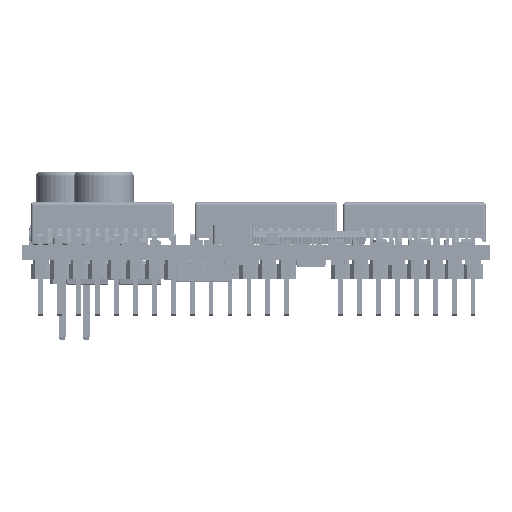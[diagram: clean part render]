
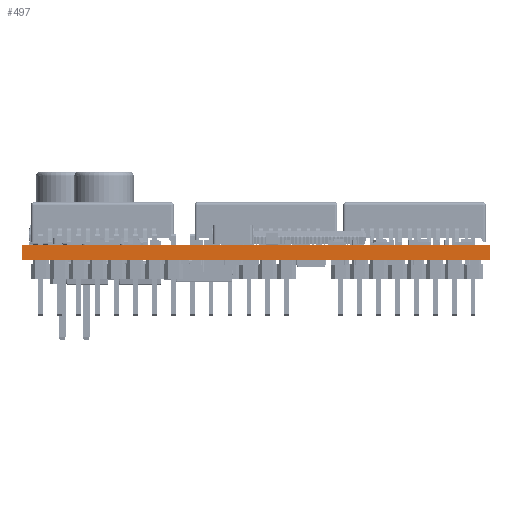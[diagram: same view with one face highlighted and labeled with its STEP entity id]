
A CAD part, front view. The second image highlights one B-rep face of the part: STEP entity #497.
In plain terms, the highlighted planar face has unit normal (0, -1, 0).
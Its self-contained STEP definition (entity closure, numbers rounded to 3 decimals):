
#472 = VERTEX_POINT('',#473);
#473 = CARTESIAN_POINT('',(49.487,0.013,
    1.6));
#479 = EDGE_CURVE('',#480,#472,#482,.T.);
#480 = VERTEX_POINT('',#481);
#481 = CARTESIAN_POINT('',(49.487,0.013,0.));
#482 = LINE('',#483,#484);
#483 = CARTESIAN_POINT('',(49.487,0.013,0.));
#484 = VECTOR('',#485,1.);
#485 = DIRECTION('',(0.,0.,1.));
#497 = ADVANCED_FACE('',(#498),#523,.T.);
#498 = FACE_BOUND('',#499,.T.);
#499 = EDGE_LOOP('',(#500,#501,#509,#517));
#500 = ORIENTED_EDGE('',*,*,#479,.T.);
#501 = ORIENTED_EDGE('',*,*,#502,.T.);
#502 = EDGE_CURVE('',#472,#503,#505,.T.);
#503 = VERTEX_POINT('',#504);
#504 = CARTESIAN_POINT('',(0.013,0.013,
    1.6));
#505 = LINE('',#506,#507);
#506 = CARTESIAN_POINT('',(49.487,0.013,
    1.6));
#507 = VECTOR('',#508,1.);
#508 = DIRECTION('',(-1.,0.,0.));
#509 = ORIENTED_EDGE('',*,*,#510,.F.);
#510 = EDGE_CURVE('',#511,#503,#513,.T.);
#511 = VERTEX_POINT('',#512);
#512 = CARTESIAN_POINT('',(0.013,0.013,0.));
#513 = LINE('',#514,#515);
#514 = CARTESIAN_POINT('',(0.013,0.013,0.));
#515 = VECTOR('',#516,1.);
#516 = DIRECTION('',(0.,0.,1.));
#517 = ORIENTED_EDGE('',*,*,#518,.F.);
#518 = EDGE_CURVE('',#480,#511,#519,.T.);
#519 = LINE('',#520,#521);
#520 = CARTESIAN_POINT('',(49.487,0.013,0.));
#521 = VECTOR('',#522,1.);
#522 = DIRECTION('',(-1.,0.,0.));
#523 = PLANE('',#524);
#524 = AXIS2_PLACEMENT_3D('',#525,#526,#527);
#525 = CARTESIAN_POINT('',(49.487,0.013,0.));
#526 = DIRECTION('',(0.,-1.,0.));
#527 = DIRECTION('',(-1.,0.,0.));
